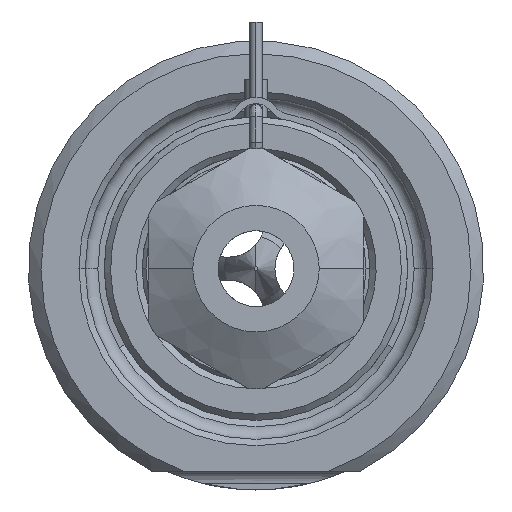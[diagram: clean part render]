
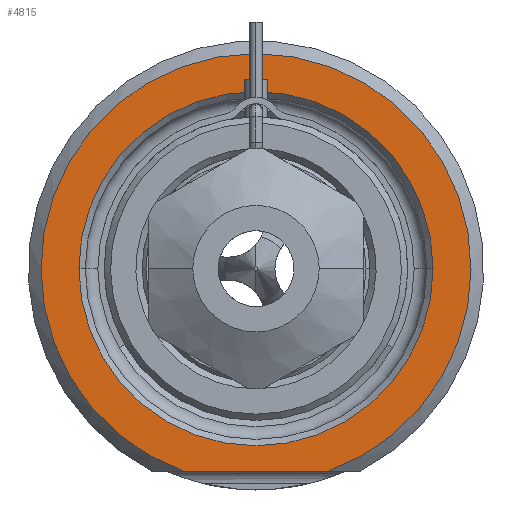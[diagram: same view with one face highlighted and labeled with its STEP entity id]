
A CAD part, front view. The second image highlights one B-rep face of the part: STEP entity #4815.
In plain terms, the highlighted planar face has unit normal (0, -1, 0).
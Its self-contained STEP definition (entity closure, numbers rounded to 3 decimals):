
#1273=CARTESIAN_POINT('',(0.,0.,0.));
#1274=DIRECTION('',(0.,-1.,0.));
#1275=DIRECTION('',(0.338,0.,-0.941));
#1276=AXIS2_PLACEMENT_3D('',#1273,#1274,#1275);
#1297=DIRECTION('',(1.,0.,0.));
#1298=VECTOR('',#1297,11.489);
#1299=CARTESIAN_POINT('',(-5.745,0.,-16.));
#1300=LINE('',#1299,#1298);
#1301=CARTESIAN_POINT('',(0.,0.,0.));
#1302=DIRECTION('',(0.,1.,0.));
#1303=DIRECTION('',(-1.,0.,0.));
#1304=AXIS2_PLACEMENT_3D('',#1301,#1302,#1303);
#1306=CARTESIAN_POINT('',(0.,0.,0.));
#1307=DIRECTION('',(0.,1.,0.));
#1308=DIRECTION('',(1.,0.,0.));
#1309=AXIS2_PLACEMENT_3D('',#1306,#1307,#1308);
#2978=CARTESIAN_POINT('',(-14.,0.,0.));
#2979=CARTESIAN_POINT('',(14.,0.,0.));
#2980=VERTEX_POINT('',#2978);
#2981=VERTEX_POINT('',#2979);
#3018=CARTESIAN_POINT('',(-5.745,0.,-16.));
#3019=CARTESIAN_POINT('',(5.745,0.,-16.));
#3020=VERTEX_POINT('',#3018);
#3021=VERTEX_POINT('',#3019);
#4800=CARTESIAN_POINT('',(0.,0.,0.));
#4801=DIRECTION('',(0.,-1.,0.));
#4802=DIRECTION('',(1.,0.,0.));
#4803=AXIS2_PLACEMENT_3D('',#4800,#4801,#4802);
#4804=PLANE('',#4803);
#4805=ORIENTED_EDGE('',*,*,#4732,.F.);
#4806=ORIENTED_EDGE('',*,*,#4792,.F.);
#4807=EDGE_LOOP('',(#4805,#4806));
#4808=FACE_OUTER_BOUND('',#4807,.F.);
#4810=ORIENTED_EDGE('',*,*,#4809,.F.);
#4812=ORIENTED_EDGE('',*,*,#4811,.F.);
#4813=EDGE_LOOP('',(#4810,#4812));
#4814=FACE_BOUND('',#4813,.F.);
#4815=ADVANCED_FACE('',(#4808,#4814),#4804,.T.);
#1277=CIRCLE('',#1276,17.);
#1305=CIRCLE('',#1304,14.);
#1310=CIRCLE('',#1309,14.);
#4732=EDGE_CURVE('',#3020,#3021,#1300,.T.);
#4792=EDGE_CURVE('',#3021,#3020,#1277,.T.);
#4809=EDGE_CURVE('',#2980,#2981,#1305,.T.);
#4811=EDGE_CURVE('',#2981,#2980,#1310,.T.);
